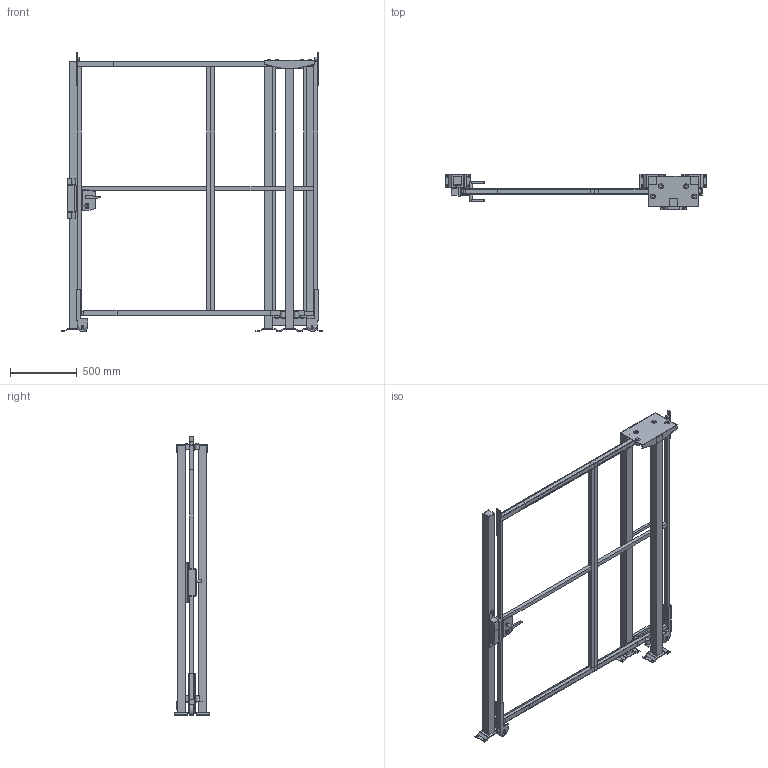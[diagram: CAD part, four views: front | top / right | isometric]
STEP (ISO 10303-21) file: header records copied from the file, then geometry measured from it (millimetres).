
FILE_DESCRIPTION(/* description */ (''),/* implementation_level */ '2;1');
FILE_NAME(/* name */ 'C:\SafeGuarding\ELABORATI\KLADKOUGAMMA_2025-03-20-13-16-28.stp',/* time_stamp */ '2025-03-20T13:16:34+01:00',/* author */ ('admin'),/* organization */ (''),/* preprocessor_version */ 'ST-DEVELOPER v18.1',/* originating_system */ 'AutoCAD Mechanical',/* authorisation */ '');
FILE_SCHEMA (('AUTOMOTIVE_DESIGN { 1 0 10303 214 3 1 1 }'));
Length unit declared in the file: millimetre
Products named in the file (5): Product; R_VFPA.REPE30.08001900; R_VFPA.REPE30.10001900; R_VFPA.REPE20.02501900; P_VFMA.V260SDU.2020
Assembly tree (7 placements, depth 2):
  Product
    R_VFPA.REPE30.08001900
    R_VFPA.REPE30.10001900
    P_VFMA.V260SDU.2020  x4
    R_VFPA.REPE20.02501900
Bounding box: 1962 x 264 x 2090.02 mm (x, y, z)
Volume: 46801157.4 mm3; surface area: 6320688.9 mm2
Topology: 68 solids, 68 shells, 608 faces, 1724 edges, 1671 vertices
Faces by surface type: plane 530, cylinder 74, bspline 4
Full cylindrical faces by diameter (mm): 9 x4, 11 x16, 13 x4, 18 x1, 25 x2, 25.398 x2, 30 x6, 36 x8, 80 x2
Entity records: 17988 total; most frequent: CARTESIAN_POINT 4649, DIRECTION 2661, ORIENTED_EDGE 2374, LINE 1199, VECTOR 1199, EDGE_CURVE 1187, VERTEX_POINT 798, AXIS2_PLACEMENT_3D 731
